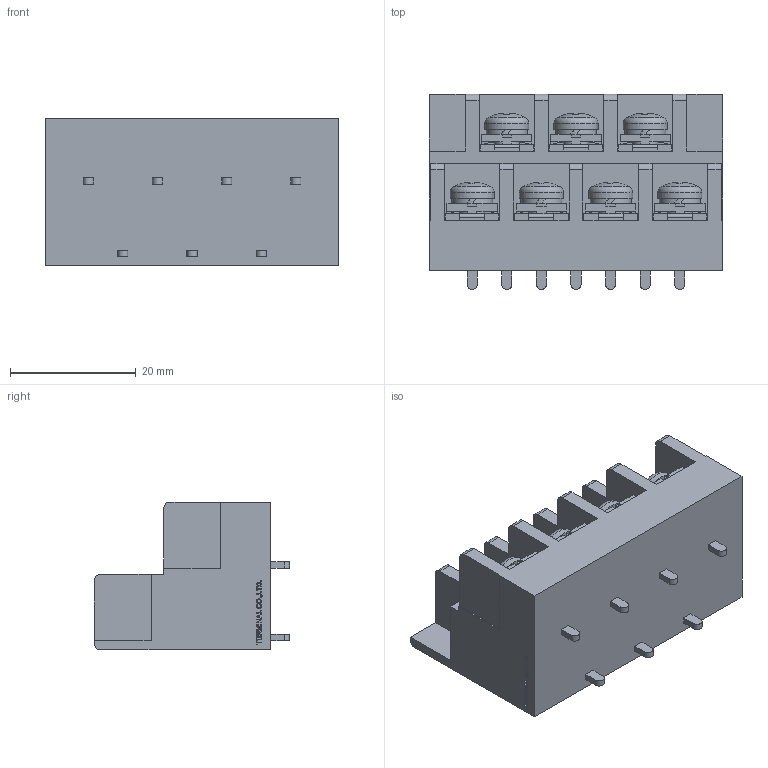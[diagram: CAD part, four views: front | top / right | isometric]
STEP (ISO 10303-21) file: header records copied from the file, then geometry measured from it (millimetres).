
FILE_DESCRIPTION(/* description */ ('Alibre Inc.'),/* implementation_level */ '2;1');
FILE_NAME(/* name */ 'export0',/* time_stamp */ '2016-08-06T13:53:24+09:00',/* author */ (''),/* organization */ (''),/* preprocessor_version */ 'ST-DEVELOPER v14',/* originating_system */ 'Alibre',/* authorisation */ '');
FILE_SCHEMA (('CONFIG_CONTROL_DESIGN'));
Length unit declared in the file: centimetre
Products named in the file (1): ID_1
Bounding box: 46.6 x 31 x 23.5 mm (x, y, z)
Volume: 19542.5 mm3; surface area: 9356.2 mm2
Topology: 1 solids, 65 shells, 1606 faces, 4202 edges, 2771 vertices
Faces by surface type: plane 1238, bspline 260, cylinder 59, cone 28, torus 14, sphere 7
Full cylindrical faces by diameter (mm): 4 x7, 7 x7
Entity records: 47049 total; most frequent: CARTESIAN_POINT 10916, ORIENTED_EDGE 8390, DIRECTION 5196, EDGE_CURVE 4167, VECTOR 3169, LINE 3169, VERTEX_POINT 2764, EDGE_LOOP 1739
